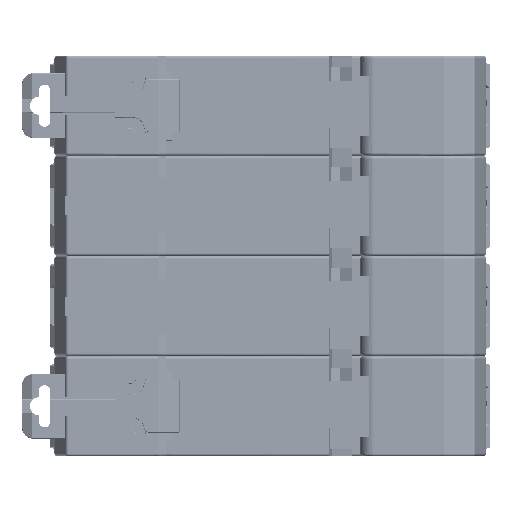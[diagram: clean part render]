
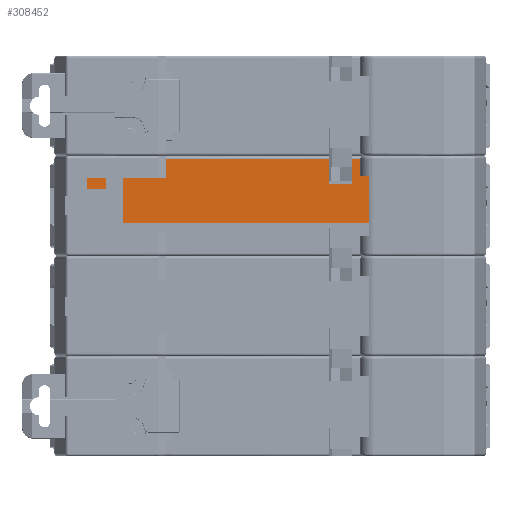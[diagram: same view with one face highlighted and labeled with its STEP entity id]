
A CAD part, front view. The second image highlights one B-rep face of the part: STEP entity #308452.
In plain terms, the highlighted planar face has unit normal (0, -1, 0).
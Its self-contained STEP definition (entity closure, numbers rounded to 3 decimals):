
#22228=DIRECTION('',(-1.,0.,0.));
#22229=VECTOR('',#22228,43.72);
#22230=CARTESIAN_POINT('',(17.5,-46.,41.5));
#22231=LINE('',#22230,#22229);
#22371=DIRECTION('',(1.,0.,0.));
#22372=VECTOR('',#22371,2.22);
#22373=CARTESIAN_POINT('',(-32.72,-46.,50.4));
#22374=LINE('',#22373,#22372);
#88369=DIRECTION('',(-1.,0.,0.));
#88370=VECTOR('',#88369,2.4);
#88371=CARTESIAN_POINT('',(-19.65,-46.,50.9));
#88372=LINE('',#88371,#88370);
#88373=DIRECTION('',(1.,0.,0.));
#88374=VECTOR('',#88373,28.932);
#88375=CARTESIAN_POINT('',(-18.5,-46.,52.9));
#88376=LINE('',#88375,#88374);
#88377=DIRECTION('',(0.,0.,-1.));
#88378=VECTOR('',#88377,4.5);
#88379=CARTESIAN_POINT('',(10.432,-46.,
52.9));
#88380=LINE('',#88379,#88378);
#88381=DIRECTION('',(1.,0.,0.));
#88382=VECTOR('',#88381,4.062);
#88383=CARTESIAN_POINT('',(10.432,-46.,
48.4));
#88384=LINE('',#88383,#88382);
#88385=DIRECTION('',(0.,0.,-1.));
#88386=VECTOR('',#88385,4.5);
#88387=CARTESIAN_POINT('',(14.494,-46.,
52.9));
#88388=LINE('',#88387,#88386);
#88389=DIRECTION('',(1.,0.,0.));
#88390=VECTOR('',#88389,3.006);
#88391=CARTESIAN_POINT('',(14.494,-46.,
52.9));
#88392=LINE('',#88391,#88390);
#88393=DIRECTION('',(0.,0.,-1.));
#88394=VECTOR('',#88393,11.4);
#88395=CARTESIAN_POINT('',(17.5,-46.,52.9));
#88396=LINE('',#88395,#88394);
#88397=DIRECTION('',(0.,0.,1.));
#88398=VECTOR('',#88397,8.9);
#88399=CARTESIAN_POINT('',(-26.22,-46.,41.5));
#88400=LINE('',#88399,#88398);
#88401=DIRECTION('',(1.,0.,0.));
#88402=VECTOR('',#88401,3.5);
#88403=CARTESIAN_POINT('',(-32.72,-46.,47.55));
#88404=LINE('',#88403,#88402);
#88405=DIRECTION('',(0.,0.,1.));
#88406=VECTOR('',#88405,2.85);
#88407=CARTESIAN_POINT('',(-32.72,-46.,47.55));
#88408=LINE('',#88407,#88406);
#88409=DIRECTION('',(-0.819,0.,-0.574));
#88410=VECTOR('',#88409,3.345);
#88411=CARTESIAN_POINT('',(-27.76,-46.,52.319));
#88412=LINE('',#88411,#88410);
#88413=DIRECTION('',(-0.833,0.,0.553));
#88414=VECTOR('',#88413,2.979);
#88415=CARTESIAN_POINT('',(-25.279,-46.,
50.67));
#88416=LINE('',#88415,#88414);
#88417=DIRECTION('',(-1.,0.,0.));
#88418=VECTOR('',#88417,0.2);
#88419=CARTESIAN_POINT('',(-25.079,-46.,
50.67));
#88420=LINE('',#88419,#88418);
#88421=DIRECTION('',(-0.819,0.,-0.574));
#88422=VECTOR('',#88421,2.818);
#88423=CARTESIAN_POINT('',(-22.77,-46.,52.287));
#88424=LINE('',#88423,#88422);
#88425=DIRECTION('',(-0.921,0.,0.391));
#88426=VECTOR('',#88425,0.782);
#88427=CARTESIAN_POINT('',(-22.05,-46.,51.981));
#88428=LINE('',#88427,#88426);
#88429=DIRECTION('',(0.,0.,1.));
#88430=VECTOR('',#88429,1.081);
#88431=CARTESIAN_POINT('',(-22.05,-46.,50.9));
#88432=LINE('',#88431,#88430);
#88449=DIRECTION('',(-0.707,0.,
-0.707));
#88450=VECTOR('',#88449,1.626);
#88451=CARTESIAN_POINT('',(-18.5,-46.,52.05));
#88452=LINE('',#88451,#88450);
#88738=DIRECTION('',(0.,0.,-1.));
#88739=VECTOR('',#88738,0.85);
#88740=CARTESIAN_POINT('',(-18.5,-46.,52.9));
#88741=LINE('',#88740,#88739);
#88762=CARTESIAN_POINT('',(14.494,-46.,
52.9));
#88948=DIRECTION('',(-1.,0.,0.));
#88949=VECTOR('',#88948,3.);
#88950=CARTESIAN_POINT('',(-26.22,-46.,50.4));
#88951=LINE('',#88950,#88949);
#88968=DIRECTION('',(0.,0.,1.));
#88969=VECTOR('',#88968,2.85);
#88970=CARTESIAN_POINT('',(-29.22,-46.,47.55));
#88971=LINE('',#88970,#88969);
#159673=CARTESIAN_POINT('',(17.5,-46.,41.5));
#159674=CARTESIAN_POINT('',(-26.22,-46.,41.5));
#159675=VERTEX_POINT('',#159673);
#159676=VERTEX_POINT('',#159674);
#159971=CARTESIAN_POINT('',(-32.72,-46.,47.55));
#159972=CARTESIAN_POINT('',(-29.22,-46.,47.55));
#159973=VERTEX_POINT('',#159971);
#159974=VERTEX_POINT('',#159972);
#159975=CARTESIAN_POINT('',(-32.72,-46.,50.4));
#159976=VERTEX_POINT('',#159975);
#159977=CARTESIAN_POINT('',(-30.5,-46.,50.4));
#159978=VERTEX_POINT('',#159977);
#159979=CARTESIAN_POINT('',(-26.22,-46.,50.4));
#159980=VERTEX_POINT('',#159979);
#159981=CARTESIAN_POINT('',(-29.22,-46.,50.4));
#159982=VERTEX_POINT('',#159981);
#159983=CARTESIAN_POINT('',(-22.77,-46.,52.287));
#159984=CARTESIAN_POINT('',(-25.079,-46.,
50.67));
#159985=VERTEX_POINT('',#159983);
#159986=VERTEX_POINT('',#159984);
#159987=CARTESIAN_POINT('',(-25.279,-46.,
50.67));
#159988=VERTEX_POINT('',#159987);
#159989=CARTESIAN_POINT('',(-27.76,-46.,52.319));
#159990=VERTEX_POINT('',#159989);
#160209=CARTESIAN_POINT('',(10.432,-46.,
48.4));
#160210=CARTESIAN_POINT('',(14.494,-46.,
48.4));
#160211=VERTEX_POINT('',#160209);
#160212=VERTEX_POINT('',#160210);
#160505=CARTESIAN_POINT('',(-18.5,-46.,52.9));
#160506=CARTESIAN_POINT('',(10.432,-46.,
52.9));
#160507=VERTEX_POINT('',#160505);
#160508=VERTEX_POINT('',#160506);
#160515=VERTEX_POINT('',#88762);
#160517=CARTESIAN_POINT('',(17.5,-46.,52.9));
#160518=VERTEX_POINT('',#160517);
#160592=CARTESIAN_POINT('',(-19.65,-46.,50.9));
#160594=VERTEX_POINT('',#160592);
#160597=CARTESIAN_POINT('',(-18.5,-46.,52.05));
#160598=VERTEX_POINT('',#160597);
#160599=CARTESIAN_POINT('',(-22.05,-46.,50.9));
#160600=VERTEX_POINT('',#160599);
#160818=CARTESIAN_POINT('',(-22.05,-46.,51.981));
#160819=VERTEX_POINT('',#160818);
#308408=CARTESIAN_POINT('',(17.5,-46.,53.4));
#308409=DIRECTION('',(0.,-1.,0.));
#308410=DIRECTION('',(-1.,0.,0.));
#308411=AXIS2_PLACEMENT_3D('',#308408,#308409,#308410);
#308412=PLANE('',#308411);
#308414=ORIENTED_EDGE('',*,*,#308413,.F.);
#308416=ORIENTED_EDGE('',*,*,#308415,.F.);
#308418=ORIENTED_EDGE('',*,*,#308417,.F.);
#308419=ORIENTED_EDGE('',*,*,#201286,.T.);
#308420=ORIENTED_EDGE('',*,*,#201311,.T.);
#308422=ORIENTED_EDGE('',*,*,#308421,.T.);
#308424=ORIENTED_EDGE('',*,*,#308423,.F.);
#308425=ORIENTED_EDGE('',*,*,#201421,.T.);
#308426=ORIENTED_EDGE('',*,*,#308312,.T.);
#308427=ORIENTED_EDGE('',*,*,#218492,.T.);
#308428=ORIENTED_EDGE('',*,*,#218528,.T.);
#308430=ORIENTED_EDGE('',*,*,#308429,.T.);
#308432=ORIENTED_EDGE('',*,*,#308431,.F.);
#308434=ORIENTED_EDGE('',*,*,#308433,.F.);
#308436=ORIENTED_EDGE('',*,*,#308435,.T.);
#308437=ORIENTED_EDGE('',*,*,#218656,.T.);
#308439=ORIENTED_EDGE('',*,*,#308438,.F.);
#308441=ORIENTED_EDGE('',*,*,#308440,.F.);
#308443=ORIENTED_EDGE('',*,*,#308442,.F.);
#308445=ORIENTED_EDGE('',*,*,#308444,.F.);
#308447=ORIENTED_EDGE('',*,*,#308446,.F.);
#308449=ORIENTED_EDGE('',*,*,#308448,.F.);
#308450=EDGE_LOOP('',(#308414,#308416,#308418,#308419,#308420,#308422,#308424,
#308425,#308426,#308427,#308428,#308430,#308432,#308434,#308436,#308437,#308439,
#308441,#308443,#308445,#308447,#308449));
#308451=FACE_OUTER_BOUND('',#308450,.F.);
#308452=ADVANCED_FACE('',(#308451),#308412,.T.);
#201286=EDGE_CURVE('',#160507,#160508,#88376,.T.);
#201311=EDGE_CURVE('',#160508,#160211,#88380,.T.);
#201421=EDGE_CURVE('',#160515,#160518,#88392,.T.);
#218492=EDGE_CURVE('',#159675,#159676,#22231,.T.);
#218528=EDGE_CURVE('',#159676,#159980,#88400,.T.);
#218656=EDGE_CURVE('',#159976,#159978,#22374,.T.);
#308312=EDGE_CURVE('',#160518,#159675,#88396,.T.);
#308413=EDGE_CURVE('',#160594,#160600,#88372,.T.);
#308415=EDGE_CURVE('',#160598,#160594,#88452,.T.);
#308417=EDGE_CURVE('',#160507,#160598,#88741,.T.);
#308421=EDGE_CURVE('',#160211,#160212,#88384,.T.);
#308423=EDGE_CURVE('',#160515,#160212,#88388,.T.);
#308429=EDGE_CURVE('',#159980,#159982,#88951,.T.);
#308431=EDGE_CURVE('',#159974,#159982,#88971,.T.);
#308433=EDGE_CURVE('',#159973,#159974,#88404,.T.);
#308435=EDGE_CURVE('',#159973,#159976,#88408,.T.);
#308438=EDGE_CURVE('',#159990,#159978,#88412,.T.);
#308440=EDGE_CURVE('',#159988,#159990,#88416,.T.);
#308442=EDGE_CURVE('',#159986,#159988,#88420,.T.);
#308444=EDGE_CURVE('',#159985,#159986,#88424,.T.);
#308446=EDGE_CURVE('',#160819,#159985,#88428,.T.);
#308448=EDGE_CURVE('',#160600,#160819,#88432,.T.);
